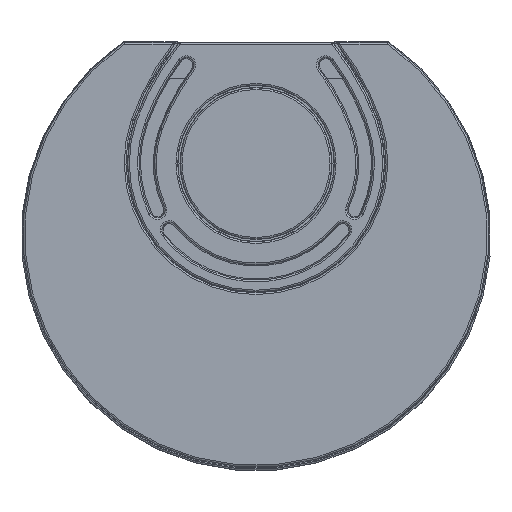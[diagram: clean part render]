
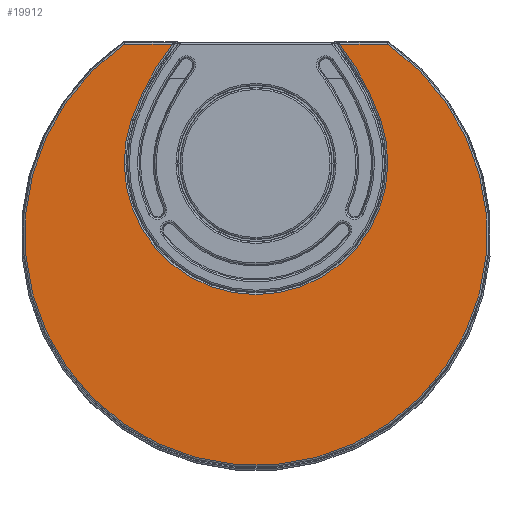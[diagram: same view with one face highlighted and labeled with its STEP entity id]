
A CAD part, top view. The second image highlights one B-rep face of the part: STEP entity #19912.
In plain terms, the highlighted planar face has unit normal (0, 0, 1).
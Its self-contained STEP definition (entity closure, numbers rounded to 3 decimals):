
#2500=CIRCLE('',#22325,152.766);
#2501=CIRCLE('',#22326,302.766);
#2502=CIRCLE('',#22327,2.022);
#2503=CIRCLE('',#22328,267.986);
#2504=CIRCLE('',#22329,2.022);
#2505=CIRCLE('',#22330,302.766);
#3398=ORIENTED_EDGE('',*,*,#9646,.T.);
#3399=ORIENTED_EDGE('',*,*,#9647,.T.);
#3400=ORIENTED_EDGE('',*,*,#9648,.T.);
#3401=ORIENTED_EDGE('',*,*,#9649,.T.);
#3402=ORIENTED_EDGE('',*,*,#9650,.T.);
#3403=ORIENTED_EDGE('',*,*,#9651,.T.);
#3404=ORIENTED_EDGE('',*,*,#9652,.T.);
#3405=ORIENTED_EDGE('',*,*,#9653,.T.);
#9646=EDGE_CURVE('',#12768,#12769,#2500,.F.);
#9647=EDGE_CURVE('',#12769,#12770,#2501,.F.);
#9648=EDGE_CURVE('',#12770,#12771,#14785,.F.);
#9649=EDGE_CURVE('',#12771,#12772,#2502,.T.);
#9650=EDGE_CURVE('',#12772,#12773,#2503,.T.);
#9651=EDGE_CURVE('',#12773,#12774,#2504,.T.);
#9652=EDGE_CURVE('',#12774,#12775,#14786,.F.);
#9653=EDGE_CURVE('',#12775,#12768,#2505,.F.);
#12768=VERTEX_POINT('',#28530);
#12769=VERTEX_POINT('',#28531);
#12770=VERTEX_POINT('',#28533);
#12771=VERTEX_POINT('',#28535);
#12772=VERTEX_POINT('',#28537);
#12773=VERTEX_POINT('',#28539);
#12774=VERTEX_POINT('',#28541);
#12775=VERTEX_POINT('',#28543);
#14785=LINE('',#28534,#15732);
#14786=LINE('',#28542,#15733);
#15732=VECTOR('',#24099,1000.);
#15733=VECTOR('',#24106,1000.);
#16672=EDGE_LOOP('',(#3398,#3399,#3400,#3401,#3402,#3403,#3404,#3405));
#18053=FACE_BOUND('',#16672,.T.);
#19431=PLANE('',#22324);
#19912=ADVANCED_FACE('',(#18053),#19431,.T.);
#22324=AXIS2_PLACEMENT_3D('',#28528,#24093,#24094);
#22325=AXIS2_PLACEMENT_3D('',#28529,#24095,#24096);
#22326=AXIS2_PLACEMENT_3D('',#28532,#24097,#24098);
#22327=AXIS2_PLACEMENT_3D('',#28536,#24100,#24101);
#22328=AXIS2_PLACEMENT_3D('',#28538,#24102,#24103);
#22329=AXIS2_PLACEMENT_3D('',#28540,#24104,#24105);
#22330=AXIS2_PLACEMENT_3D('',#28544,#24107,#24108);
#24093=DIRECTION('',(0.,0.,1.));
#24094=DIRECTION('',(1.,0.,0.));
#24095=DIRECTION('',(0.,0.,1.));
#24096=DIRECTION('',(1.,0.,0.));
#24097=DIRECTION('',(0.,0.,1.));
#24098=DIRECTION('',(1.,0.,0.));
#24099=DIRECTION('',(1.,0.,0.));
#24100=DIRECTION('',(0.,0.,1.));
#24101=DIRECTION('',(1.,0.,0.));
#24102=DIRECTION('',(0.,0.,1.));
#24103=DIRECTION('',(1.,0.,0.));
#24104=DIRECTION('',(0.,0.,1.));
#24105=DIRECTION('',(1.,0.,0.));
#24106=DIRECTION('',(1.,0.,0.));
#24107=DIRECTION('',(0.,0.,1.));
#24108=DIRECTION('',(1.,0.,0.));
#28528=CARTESIAN_POINT('',(152.409,-103.336,1258.));
#28529=CARTESIAN_POINT('',(0.,-238.5,1258.));
#28530=CARTESIAN_POINT('',(144.356,-188.513,1258.));
#28531=CARTESIAN_POINT('',(-144.356,-188.513,1258.));
#28532=CARTESIAN_POINT('',(141.743,-287.582,1258.));
#28533=CARTESIAN_POINT('',(-96.945,-101.314,1258.));
#28534=CARTESIAN_POINT('',(-152.409,-101.314,1258.));
#28535=CARTESIAN_POINT('',(-152.409,-101.314,1258.));
#28536=CARTESIAN_POINT('',(-152.409,-103.336,1258.));
#28537=CARTESIAN_POINT('',(-153.568,-101.679,1258.));
#28538=CARTESIAN_POINT('',(0.,-321.3,1258.));
#28539=CARTESIAN_POINT('',(153.568,-101.679,1258.));
#28540=CARTESIAN_POINT('',(152.409,-103.336,1258.));
#28541=CARTESIAN_POINT('',(152.41,-101.314,1258.));
#28542=CARTESIAN_POINT('',(92.866,-101.314,1258.));
#28543=CARTESIAN_POINT('',(96.945,-101.314,1258.));
#28544=CARTESIAN_POINT('',(-141.743,-287.582,1258.));
